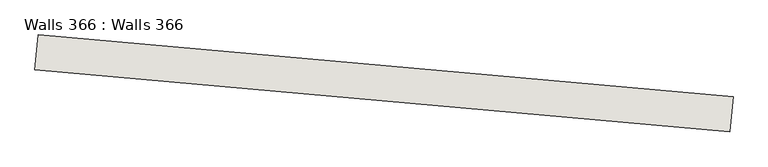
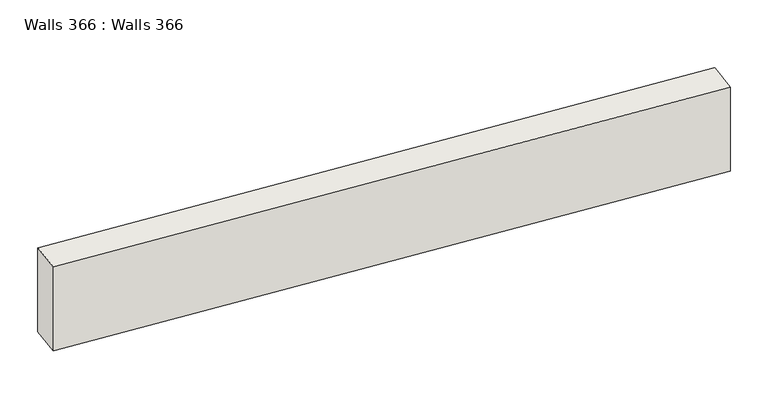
"""IFC4 building model written with IfcOpenShell, lengths in millimetres: wall geometry, Walls 366 : Walls 366."""

import ifcopenshell
import ifcopenshell.guid

model = None  # the IFC model being written
_history = None  # IfcOwnerHistory: only IFC2X3 demands one
_inside = {}  # id of a spatial element -> (the spatial element, [elements in it])
_under = {}  # id of a project, library or spatial element -> (it, [spatial elements below it])
_declared = {}  # id of a project -> (the project, [libraries it declares])
_typed = {}  # id of a type object -> (the type object, [elements of that type])
_made_of = {}  # id of a material, layer set ... -> (it, [elements and type objects made of it])


def new_model(schema):
    """Start an empty IFC model of exactly this schema.

    Asked for "IFC4X3", IfcOpenShell would pick the latest addendum, in which some entities
    have other attributes; the version numbers below select the first issue.
    IFC2X3 requires an IfcOwnerHistory on every rooted entity: one is made here for all.
    """
    global model, _history
    if schema == "IFC4X3":
        model = ifcopenshell.file(schema_version=(4, 3, 0, 0))
    else:
        model = ifcopenshell.file(schema=schema)
    _inside.clear()
    _under.clear()
    _declared.clear()
    _typed.clear()
    _made_of.clear()
    _history = None
    if model.schema == "IFC2X3":
        org = make("IfcOrganization", Name="unknown")
        user = make(
            "IfcPersonAndOrganization",
            ThePerson=make("IfcPerson", FamilyName="unknown"),
            TheOrganization=org,
        )
        app = make(
            "IfcApplication",
            ApplicationDeveloper=org,
            Version="unknown",
            ApplicationFullName="unknown",
            ApplicationIdentifier="unknown",
        )
        _history = make(
            "IfcOwnerHistory",
            OwningUser=user,
            OwningApplication=app,
            ChangeAction="ADDED",
            CreationDate=0,
        )
    return model


def make(cls, **values):
    """One entity of the class cls with the attributes given. An attribute that is None is left unset."""
    return model.create_entity(
        cls, **{name: value for name, value in values.items() if value is not None}
    )


def rooted(cls, **values):
    """An entity with a GlobalId (a new one), such as an element, a storey or a relation."""
    return make(cls, GlobalId=ifcopenshell.guid.new(), OwnerHistory=_history, **values)


def si_unit(unit_type, name, prefix=None):
    """IfcSIUnit, for example si_unit("LENGTHUNIT", "METRE", prefix="MILLI")."""
    return make("IfcSIUnit", UnitType=unit_type, Prefix=prefix, Name=name)


def assignment(units):
    """IfcUnitAssignment: the units of a project."""
    return None if units is None else make("IfcUnitAssignment", Units=units)


def point(xyz):
    """IfcCartesianPoint."""
    return None if xyz is None else make("IfcCartesianPoint", Coordinates=xyz)


def direction(xyz):
    """IfcDirection."""
    return None if xyz is None else make("IfcDirection", DirectionRatios=xyz)


def frame(location, z_axis=None, x_axis=None):
    """IfcAxis2Placement3D, a coordinate frame: its origin and axes. An axis left out is left unset."""
    return make(
        "IfcAxis2Placement3D",
        Location=point(location),
        Axis=direction(z_axis),
        RefDirection=direction(x_axis),
    )


def origin():
    """The frame at (0, 0, 0) with its axes left unset."""
    return frame((0.0, 0.0, 0.0))


def place(relative_to, where):
    """IfcLocalPlacement: puts the frame where relative to a parent placement (None: the world)."""
    return make(
        "IfcLocalPlacement", PlacementRelTo=relative_to, RelativePlacement=where
    )


def context(
    kind, dimensions, precision=None, world=None, true_north=None, identifier=None
):
    """IfcGeometricRepresentationContext, for example the 3D "Model" context."""
    return make(
        "IfcGeometricRepresentationContext",
        ContextIdentifier=identifier,
        ContextType=kind,
        CoordinateSpaceDimension=dimensions,
        Precision=precision,
        WorldCoordinateSystem=world,
        TrueNorth=true_north,
    )


def project(units=None, contexts=None):
    """IfcProject with its units and contexts."""
    return rooted(
        "IfcProject",
        Name="project",
        RepresentationContexts=contexts,
        UnitsInContext=assignment(units),
    )


def spatial(cls, under=None, at=None, **own):
    """A site, building, storey or space (cls), placed at a placement, below another one or the project."""
    s = rooted(cls, ObjectPlacement=at, **own)
    if under is not None:
        _under.setdefault(under.id(), (under, []))[1].append(s)
    return s


def polyline(points):
    """IfcPolyline through the points."""
    return make("IfcPolyline", Points=[point(p) for p in points])


def outline(outer, holes=None, kind="AREA"):
    """IfcArbitraryClosedProfileDef: a profile drawn as a closed curve; with holes, ...WithVoids."""
    if holes is None:
        return make("IfcArbitraryClosedProfileDef", ProfileType=kind, OuterCurve=outer)
    return make(
        "IfcArbitraryProfileDefWithVoids",
        ProfileType=kind,
        OuterCurve=outer,
        InnerCurves=holes,
    )


def extrude(swept, where, along, depth):
    """IfcExtrudedAreaSolid: the profile swept, set in the frame where, extruded along a direction by depth."""
    return make(
        "IfcExtrudedAreaSolid",
        SweptArea=swept,
        Position=where,
        ExtrudedDirection=direction(along),
        Depth=depth,
    )


def shape(context_of_items, identifier, shape_type, items):
    """IfcShapeRepresentation: the items that make up one representation, for example the "Body"."""
    return make(
        "IfcShapeRepresentation",
        ContextOfItems=context_of_items,
        RepresentationIdentifier=identifier,
        RepresentationType=shape_type,
        Items=items,
    )


def source(mapping_origin, context_of_items, identifier, shape_type, items):
    """IfcRepresentationMap: a shape defined once, which mapped items show again and again."""
    return make(
        "IfcRepresentationMap",
        MappingOrigin=mapping_origin,
        MappedRepresentation=shape(context_of_items, identifier, shape_type, items),
    )


def transform(
    local_origin,
    x_axis=None,
    y_axis=None,
    z_axis=None,
    scale=None,
    scale2=None,
    scale3=None,
    uniform=True,
):
    """IfcCartesianTransformationOperator3D, or its non-uniform kind. x_axis, y_axis, z_axis: its Axis1, 2, 3."""
    if uniform:
        return make(
            "IfcCartesianTransformationOperator3D",
            Axis1=direction(x_axis),
            Axis2=direction(y_axis),
            LocalOrigin=point(local_origin),
            Scale=scale,
            Axis3=direction(z_axis),
        )
    return make(
        "IfcCartesianTransformationOperator3DnonUniform",
        Axis1=direction(x_axis),
        Axis2=direction(y_axis),
        LocalOrigin=point(local_origin),
        Scale=scale,
        Axis3=direction(z_axis),
        Scale2=scale2,
        Scale3=scale3,
    )


def mapped(mapping_source, mapping_target):
    """IfcMappedItem: shows the shape of a source again, moved by a transform."""
    return make(
        "IfcMappedItem", MappingSource=mapping_source, MappingTarget=mapping_target
    )


def made_of(thing, what):
    """Note that an element or type object is made of a material, layer set ...; save() writes the relation."""
    if what is not None:
        _made_of.setdefault(what.id(), (what, []))[1].append(thing)
    return thing


def element(
    cls,
    number,
    at=None,
    inside=None,
    cuts=None,
    type_object=None,
    material=None,
    context=None,
    identifier="Body",
    shape_type=None,
    held_by="IfcProductDefinitionShape",
    body=None,
    shapes=None,
    **own,
):
    """One element of the class cls, such as IfcWall. Its Tag is "e" and its number.

    at: its placement. inside: the storey or other place that contains it. cuts: it is an
    opening in that element (IfcRelVoidsElement). A single representation is given by context,
    identifier, shape_type and body (its items); several are given by shapes. held_by: the class
    of the entity that holds the representations. save() writes the other relations.
    """
    e = rooted(cls, Tag="e%d" % number, ObjectPlacement=at, **own)
    if body is not None:
        shapes = [shape(context, identifier, shape_type, body)]
    if shapes is not None:
        e.Representation = make(held_by, Representations=shapes)
    if inside is not None:
        _inside.setdefault(inside.id(), (inside, []))[1].append(e)
    if cuts is not None:
        rooted(
            "IfcRelVoidsElement", RelatingBuildingElement=cuts, RelatedOpeningElement=e
        )
    if type_object is not None:
        _typed.setdefault(type_object.id(), (type_object, []))[1].append(e)
    return made_of(e, material)


def aggregate(whole, parts):
    """IfcRelAggregates: a whole, such as a stair, and the parts it consists of."""
    return rooted("IfcRelAggregates", RelatingObject=whole, RelatedObjects=parts)


def save(model, path):
    """Write the relations noted so far, then the file.

    IfcRelAggregates (storeys below a building ...), IfcRelContainedInSpatialStructure (elements
    in a storey), IfcRelDefinesByType, IfcRelAssociatesMaterial and IfcRelDeclares: one each for
    every whole, place, type object, material and project.
    """
    for whole, parts in _under.values():
        aggregate(whole, parts)
    for where, things in _inside.values():
        rooted(
            "IfcRelContainedInSpatialStructure",
            RelatedElements=things,
            RelatingStructure=where,
        )
    for kind, things in _typed.values():
        rooted("IfcRelDefinesByType", RelatedObjects=things, RelatingType=kind)
    for what, things in _made_of.values():
        rooted("IfcRelAssociatesMaterial", RelatedObjects=things, RelatingMaterial=what)
    for by, libraries in _declared.values():
        rooted("IfcRelDeclares", RelatingContext=by, RelatedDefinitions=libraries)
    model.write(path)


def walls_366_walls_366_0ae9a18b(model_context):
    return source(origin(), model_context, "Body", "SweptSolid", [
        extrude(outline(polyline([(-690570.5156097, -417156.8387977), (-690606.0105398, -417555.2608226), (-698574.4510382, -416845.3622213), (-698538.9561081, -416446.9401964), (-690570.5156097, -417156.8387977)])), frame((0.0, 0.0, 635360.0), z_axis=(0.0, 0.0, 1.0), x_axis=(1.0, 0.0, 0.0)), (0.0, 0.0, 1.0), 1100.0),
    ])


if __name__ == "__main__":
    model = new_model("IFC4")
    model_context = context("Model", 3, world=origin())
    ifc_project = project(units=[si_unit("LENGTHUNIT", "METRE", prefix="MILLI")], contexts=[model_context])
    site = spatial("IfcSite", under=ifc_project)
    building = spatial("IfcBuilding", under=site)
    placement = place(None, origin())
    walls_366_walls_366_shape = walls_366_walls_366_0ae9a18b(model_context)
    element("IfcWall", 1, ObjectType="Walls 366 : Walls 366", at=placement, inside=building, context=model_context, shape_type="MappedRepresentation", body=[
        mapped(walls_366_walls_366_shape, transform((0.0, 0.0, 0.0), x_axis=(1.0, 0.0, 0.0), y_axis=(0.0, 1.0, 0.0), z_axis=(0.0, 0.0, 1.0))),
    ])
    save(model, "model.ifc")
